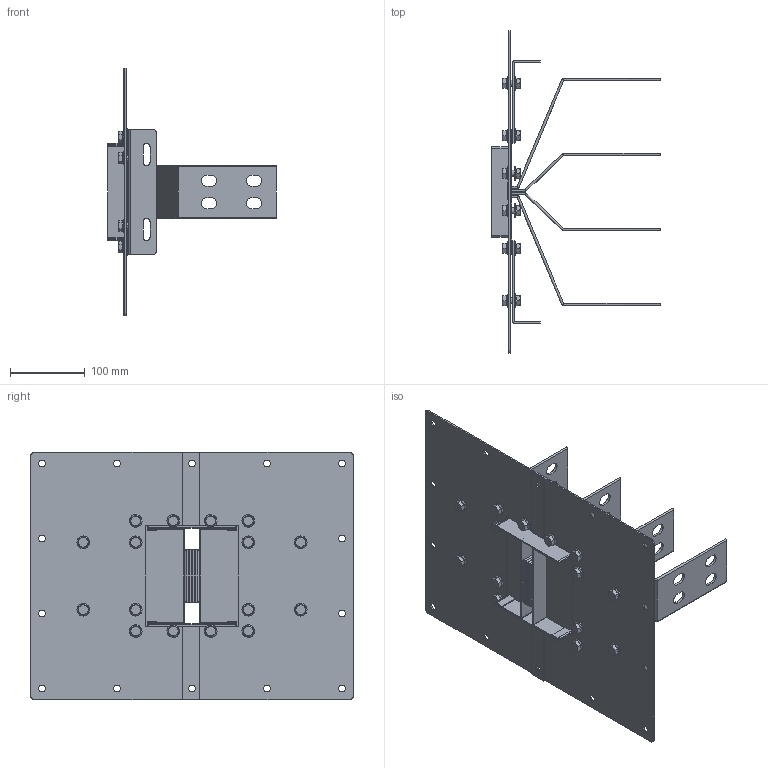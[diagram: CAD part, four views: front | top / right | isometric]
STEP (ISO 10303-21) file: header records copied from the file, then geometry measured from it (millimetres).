
FILE_DESCRIPTION(('CATIA V5 STEP','CAx-IF Rec.Pracs.--- Model Styling and Organization---1.5--- 2016-08-15','CAx-IF Rec.Pracs.---Supplemental Geometry---1.0---2011-11-01','CAx-IF Rec.Pracs.--- Composite Materials ---1.1---2010-07-15'),'2;1');
FILE_NAME('K:\COSCN 2011\32372311_RiduzioneSezioniBarre\03_Studio\__Modelli semplificati\XCP_UB semplificati per studi\XCP-S_UB_4C_Pe_STD_Assieme\Cu\XCP-S_UB_4C_Pe_S_Assieme - 800A Cu\XCP-S_UB_4C_Pe_S_Assieme - 800A Cu.stp','2025-05-12T12:50:30+00:00',('Utente Bticino'),('Bticino S.p.A.'),'CATIA Version 5-6 Release 2020 SP5','CATIA V5 STEP AP214 v2','none');
FILE_SCHEMA(('AUTOMOTIVE_DESIGN { 1 0 10303 214 1 1 1 1 }'));
Length unit declared in the file: millimetre
Products named in the file (7): XCP-S_UB_4C_Pe_S_Assieme - 800A Cu; XCP-S_UB_4C_Pe_S_PaccoBarre_800 Cu; XCP-S_UB_4C_Pe_S_Lamiere_800A Cu; Viteria UB H130; Ass Vite+dado M8; Steel hex flanged SCREW M12x16; Steel hex flanged NUT M8
Assembly tree (21 placements, depth 4):
  XCP-S_UB_4C_Pe_S_Assieme - 800A Cu
    XCP-S_UB_4C_Pe_S_PaccoBarre_800 Cu
    XCP-S_UB_4C_Pe_S_Lamiere_800A Cu
    Viteria UB H130
      Ass Vite+dado M8  x16
        Steel hex flanged SCREW M12x16
        Steel hex flanged NUT M8
Bounding box: 225 x 430 x 330 mm (x, y, z)
Volume: 709219.5 mm3; surface area: 640173 mm2
Topology: 44 solids, 44 shells, 1148 faces, 2824 edges, 1796 vertices
Faces by surface type: plane 480, cylinder 380, cone 128, bspline 128, torus 32
Entity records: 14965 total; most frequent: CARTESIAN_POINT 3470, ORIENTED_EDGE 2468, DIRECTION 1936, EDGE_CURVE 1234, AXIS2_PLACEMENT_3D 820, VERTEX_POINT 806, VECTOR 732, LINE 732
